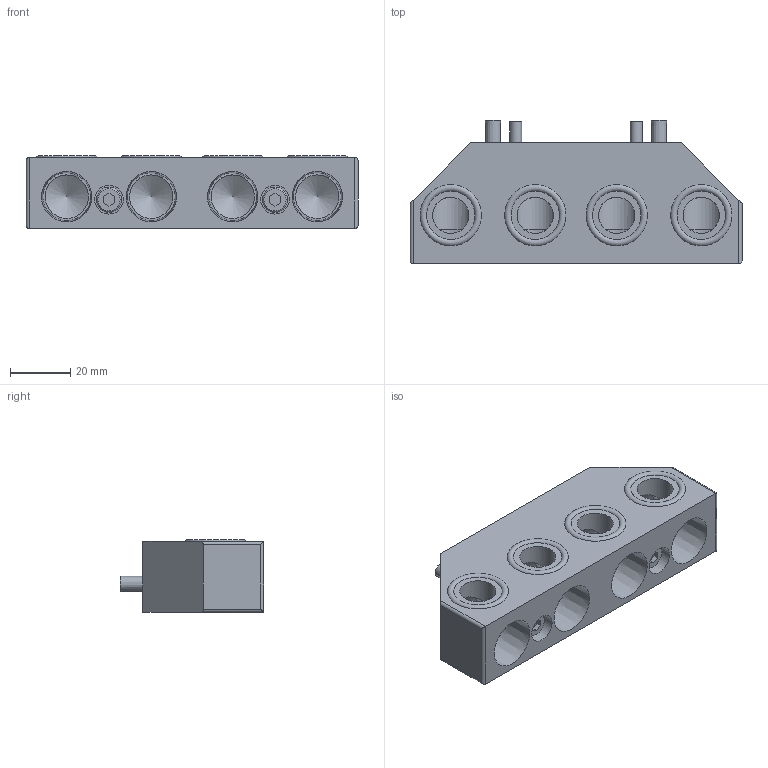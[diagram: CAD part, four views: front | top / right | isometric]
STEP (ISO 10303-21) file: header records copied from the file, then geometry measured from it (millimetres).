
FILE_DESCRIPTION(('STEP AP214'),'1');
FILE_NAME('KHB-45_300HS-EP104_ver1.stp','2026-04-27T08:02:37',(' '),(' '),'Spatial InterOp 3D',' ',' ');
FILE_SCHEMA(('AUTOMOTIVE_DESIGN { 1 0 10303 214 1 1 1 1 }'));
Length unit declared in the file: millimetre
Products named in the file (3): KHB-45~300HS-EP104_ver1; パーツ1
Assembly tree (2 placements, depth 2):
  KHB-45~300HS-EP104_ver1
    パーツ1
    パーツ1
Bounding box: 110 x 47.5 x 24.1 mm (x, y, z)
Volume: 72527.5 mm3; surface area: 22674.8 mm2
Topology: 2 solids, 3 shells, 89 faces, 209 edges, 138 vertices
Faces by surface type: plane 46, cylinder 27, cone 12, torus 4
Full cylindrical faces by diameter (mm): 4 x3, 5 x2, 5.5 x2, 8.385 x2, 9.5 x2, 12 x4, 14.4 x4
Entity records: 3208 total; most frequent: CARTESIAN_POINT 612, DIRECTION 392, ORIENTED_EDGE 300, AXIS2_PLACEMENT_3D 158, EDGE_CURVE 150, EDGE_LOOP 144, VERTEX_POINT 118, FACE_OUTER_BOUND 112
